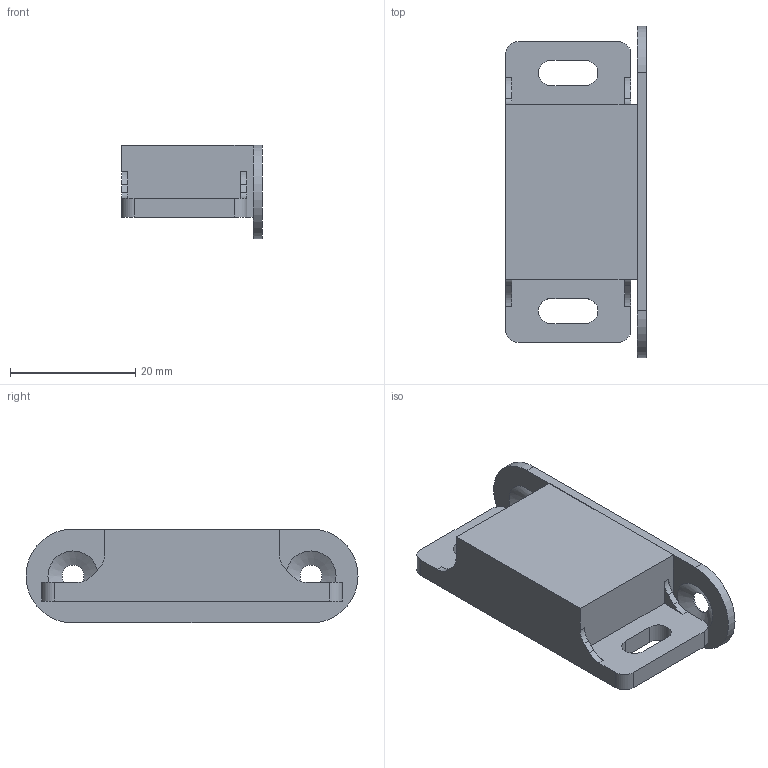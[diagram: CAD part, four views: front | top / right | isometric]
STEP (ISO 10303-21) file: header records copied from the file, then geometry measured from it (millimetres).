
FILE_DESCRIPTION(/* description */ (''),/* implementation_level */ '2;1');
FILE_NAME(/* name */ '\\NAS\db20\B-MP38\DR_B-MP38.stp',/* time_stamp */ '2018-03-05T11:22:23+09:00',/* author */ ('user'),/* organization */ (''),/* preprocessor_version */ 'ST-DEVELOPER v15.6',/* originating_system */ 'Autodesk Inventor 2015',/* authorisation */ '');
FILE_SCHEMA (('AUTOMOTIVE_DESIGN { 1 0 10303 214 3 1 1 }'));
Length unit declared in the file: millimetre
Products named in the file (3): DR_B-MP38; DR_B-MP38아대
Bounding box: 22.5 x 53 x 15 mm (x, y, z)
Volume: 8809.1 mm3; surface area: 4896.6 mm2
Topology: 2 solids, 2 shells, 50 faces, 138 edges, 92 vertices
Faces by surface type: plane 28, cylinder 20, cone 2
Full cylindrical faces by diameter (mm): 3.5 x2
Entity records: 1661 total; most frequent: DIRECTION 284, CARTESIAN_POINT 277, ORIENTED_EDGE 264, EDGE_CURVE 132, AXIS2_PLACEMENT_3D 97, LINE 90, VECTOR 90, VERTEX_POINT 90
